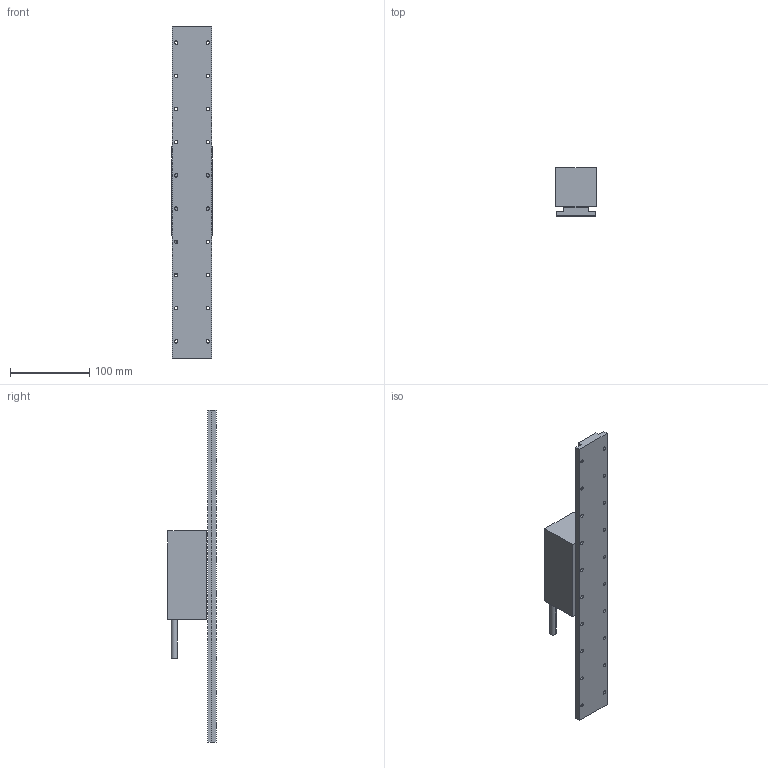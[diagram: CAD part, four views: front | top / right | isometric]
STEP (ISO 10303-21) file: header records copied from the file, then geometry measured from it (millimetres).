
FILE_DESCRIPTION (( 'STEP AP214' ), '1' );
FILE_NAME ('FLM-51-112蚾饜极.STEP', '2022-05-12T07:59:26', ( 'Microsoft' ), ( 'Microsoft' ), 'SwSTEP 2.0', 'SolidWorks 2016', '' );
FILE_SCHEMA (( 'AUTOMOTIVE_DESIGN' ));
Length unit declared in the file: millimetre
Products named in the file (3): FLM-51-112蚾饜极; FLM-51-112; TLM-50-L420
Assembly tree (2 placements, depth 2):
  FLM-51-112蚾饜极
    TLM-50-L420
    FLM-51-112
Bounding box: 51 x 61.1 x 420 mm (x, y, z)
Volume: 469147 mm3; surface area: 82577.7 mm2
Topology: 2 solids, 2 shells, 155 faces, 366 edges, 230 vertices
Faces by surface type: cylinder 94, plane 37, cone 24
Entity records: 4766 total; most frequent: DIRECTION 874, CARTESIAN_POINT 744, ORIENTED_EDGE 708, AXIS2_PLACEMENT_3D 360, EDGE_CURVE 354, VERTEX_POINT 230, EDGE_LOOP 222, CIRCLE 200
